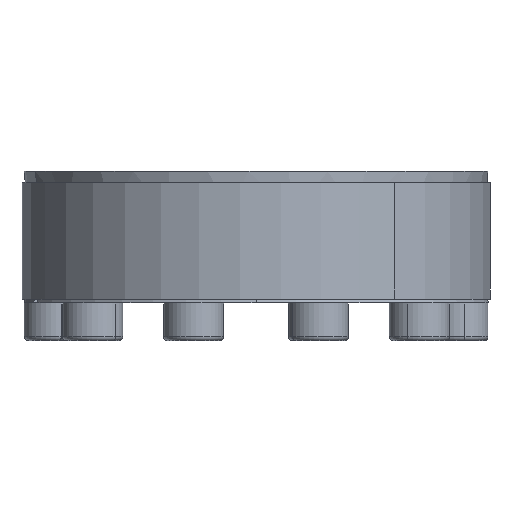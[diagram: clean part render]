
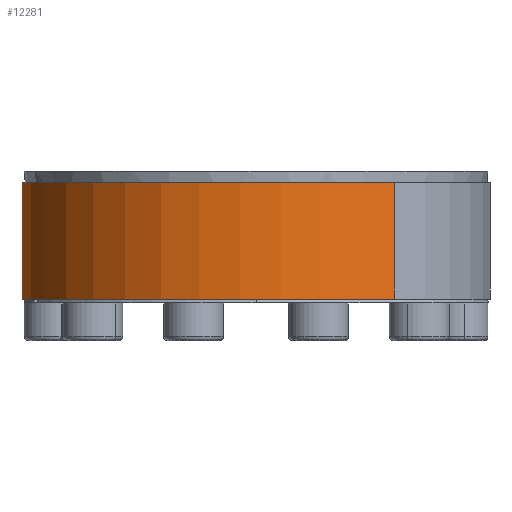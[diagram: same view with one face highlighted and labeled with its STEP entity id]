
A CAD part, left-side view. The second image highlights one B-rep face of the part: STEP entity #12281.
In plain terms, the highlighted cylindrical face has radius 62.48 mm (diameter 124.96 mm), a partial arc.
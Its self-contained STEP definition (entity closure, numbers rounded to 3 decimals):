
#1258 = ORIENTED_EDGE ( 'NONE', *, *, #12631, .T. ) ;
#1289 = DIRECTION ( 'NONE',  ( 0., 0., 1. ) ) ;
#2171 = FACE_OUTER_BOUND ( 'NONE', #2445, .T. ) ;
#2308 = ORIENTED_EDGE ( 'NONE', *, *, #14809, .F. ) ;
#2445 = EDGE_LOOP ( 'NONE', ( #2308, #2520, #12842, #1258 ) ) ;
#2479 = VECTOR ( 'NONE', #13451, 1000. ) ;
#2520 = ORIENTED_EDGE ( 'NONE', *, *, #4150, .F. ) ;
#2779 = CIRCLE ( 'NONE', #12757, 62.48 ) ;
#3120 = VECTOR ( 'NONE', #13313, 1000. ) ;
#3326 = AXIS2_PLACEMENT_3D ( 'NONE', #3638, #11946, #4825 ) ;
#3638 = CARTESIAN_POINT ( 'NONE',  ( 0., 0., 32.054 ) ) ;
#4150 = EDGE_CURVE ( 'NONE', #9726, #15054, #7752, .T. ) ;
#4505 = CARTESIAN_POINT ( 'NONE',  ( 50.547, 36.725, 1.054 ) ) ;
#4772 = CARTESIAN_POINT ( 'NONE',  ( -50.547, -36.725, 1.054 ) ) ;
#4825 = DIRECTION ( 'NONE',  ( -0.809, -0.588, 0. ) ) ;
#5170 = CARTESIAN_POINT ( 'NONE',  ( -50.547, -36.725, 32.054 ) ) ;
#5619 = LINE ( 'NONE', #5170, #2479 ) ;
#7752 = CIRCLE ( 'NONE', #3326, 62.48 ) ;
#8401 = CARTESIAN_POINT ( 'NONE',  ( 0., 0., 1.054 ) ) ;
#8510 = CARTESIAN_POINT ( 'NONE',  ( 50.547, 36.725, 32.054 ) ) ;
#8737 = VERTEX_POINT ( 'NONE', #4772 ) ;
#9255 = EDGE_CURVE ( 'NONE', #9726, #11322, #9447, .T. ) ;
#9447 = LINE ( 'NONE', #8510, #3120 ) ;
#9610 = DIRECTION ( 'NONE',  ( -0.809, -0.588, 0. ) ) ;
#9726 = VERTEX_POINT ( 'NONE', #14211 ) ;
#10485 = AXIS2_PLACEMENT_3D ( 'NONE', #12890, #10519, #11768 ) ;
#10518 = CARTESIAN_POINT ( 'NONE',  ( -50.547, -36.725, 32.054 ) ) ;
#10519 = DIRECTION ( 'NONE',  ( 0., 0., -1. ) ) ;
#11322 = VERTEX_POINT ( 'NONE', #4505 ) ;
#11768 = DIRECTION ( 'NONE',  ( 0.809, 0.588, 0. ) ) ;
#11946 = DIRECTION ( 'NONE',  ( 0., 0., 1. ) ) ;
#12168 = CYLINDRICAL_SURFACE ( 'NONE', #10485, 62.48 ) ;
#12281 = ADVANCED_FACE ( 'NONE', ( #2171 ), #12168, .T. ) ;
#12631 = EDGE_CURVE ( 'NONE', #11322, #8737, #2779, .T. ) ;
#12757 = AXIS2_PLACEMENT_3D ( 'NONE', #8401, #1289, #9610 ) ;
#12842 = ORIENTED_EDGE ( 'NONE', *, *, #9255, .T. ) ;
#12890 = CARTESIAN_POINT ( 'NONE',  ( 0., 0., 32.054 ) ) ;
#13313 = DIRECTION ( 'NONE',  ( 0., 0., -1. ) ) ;
#13451 = DIRECTION ( 'NONE',  ( 0., 0., -1. ) ) ;
#14211 = CARTESIAN_POINT ( 'NONE',  ( 50.547, 36.725, 32.054 ) ) ;
#14809 = EDGE_CURVE ( 'NONE', #15054, #8737, #5619, .T. ) ;
#15054 = VERTEX_POINT ( 'NONE', #10518 ) ;
